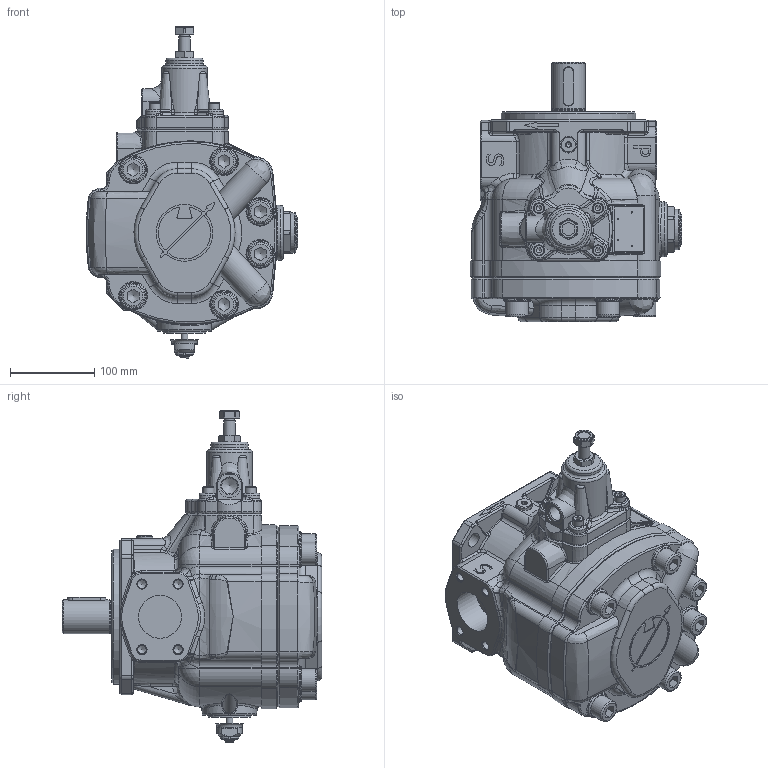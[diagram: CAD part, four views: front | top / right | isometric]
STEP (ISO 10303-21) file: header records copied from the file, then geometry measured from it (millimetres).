
FILE_DESCRIPTION(/* description */ (''),/* implementation_level */ '2;1');
FILE_NAME(/* name */ 'W:\Tecnico\Archivio\Berarma\Dimensioni Pompe\3D Export\Montaggio 3D semplificato\PLP-PHP 3\PLP 3.stp',/* time_stamp */ '2018-10-08T11:24:06+02:00',/* author */ ('marcop'),/* organization */ (''),/* preprocessor_version */ 'ST-DEVELOPER v17',/* originating_system */ 'Autodesk Inventor 2018',/* authorisation */ '');
FILE_SCHEMA (('AUTOMOTIVE_DESIGN { 1 0 10303 214 3 1 1 }'));
Length unit declared in the file: millimetre
Products named in the file (1): PLP-PHP 3_Shrinkwrap_1
Bounding box: 251.18 x 308 x 394.1 mm (x, y, z)
Volume: 6699110.6 mm3; surface area: 527566.6 mm2
Topology: 2 solids, 2 shells, 1675 faces, 4184 edges, 2537 vertices
Faces by surface type: cylinder 426, plane 424, bspline 406, torus 209, cone 165, sphere 45
Full cylindrical faces by diameter (mm): 1.7 x4, 3 x2, 3.15 x1, 8 x1, 8.376 x4, 10.106 x4, 12 x4, 13 x4, 14 x2, 15.2 x1, 18 x4, 18.631 x1, 19 x1, 20 x2, 21 x1, 23 x1, 27 x6, 28 x1, 30 x1, 32 x7, 33.376 x1, 38 x1, 39.4 x1, 40 x3, 44 x2, 45 x3, 47.75 x1, 48 x1, 49.8 x1, 50 x4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
Entity records: 63788 total; most frequent: CARTESIAN_POINT 24384, ORIENTED_EDGE 8234, DIRECTION 7468, EDGE_CURVE 4117, AXIS2_PLACEMENT_3D 3041, VERTEX_POINT 2537, EDGE_LOOP 1776, CIRCLE 1719
